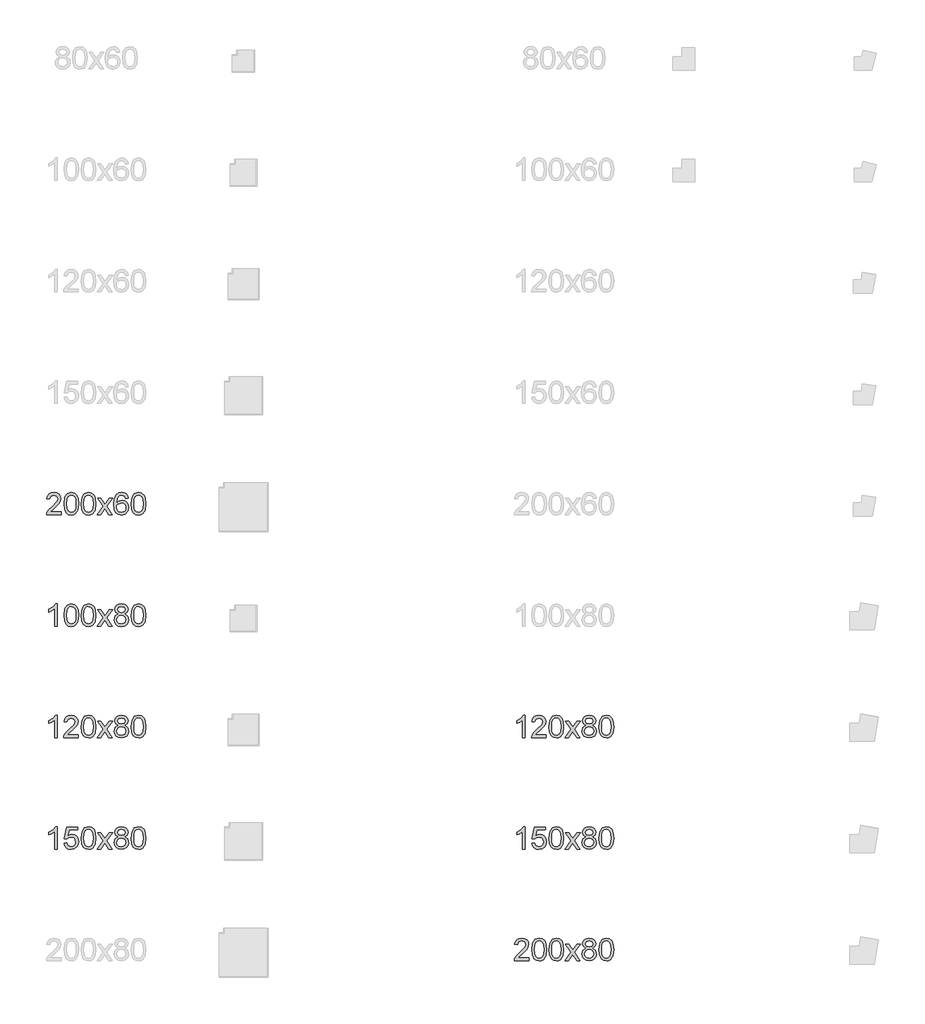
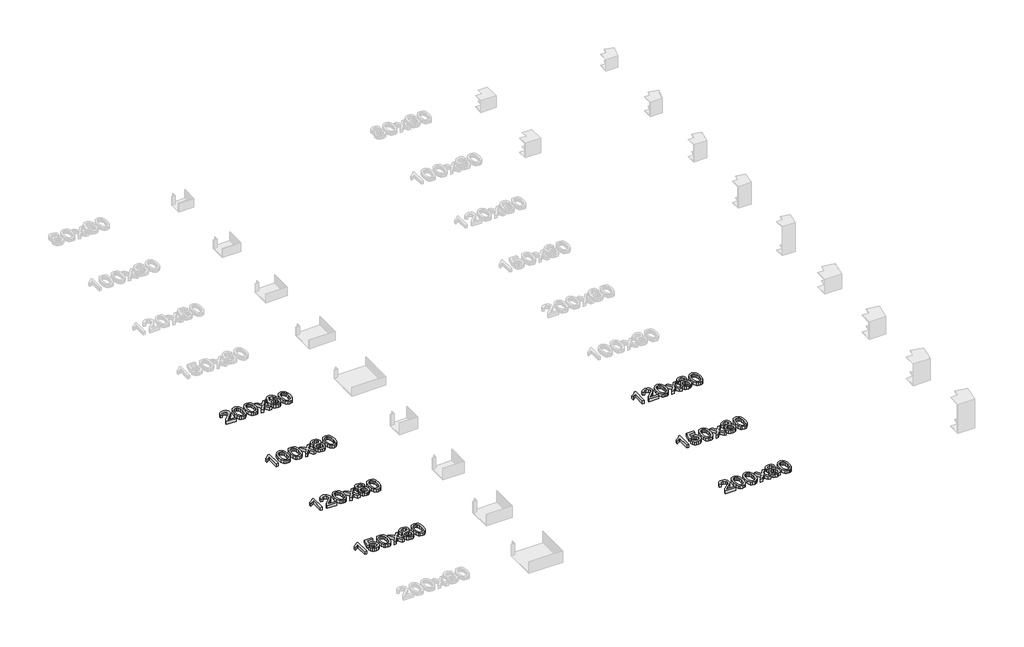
# One storey, part 13 of 28: 7 proxies.
"""IFC4 building model written with IfcOpenShell, lengths in millimetres."""

from ifc_helpers import new_model, si_unit, origin, origin_with_axes, place, context, project, spatial, polyline, outline, extrude, element, save

model = new_model("IFC4")

# Units and contexts
model_context = context("Model", 3, world=origin())
ifc_project = project(units=[si_unit("LENGTHUNIT", "METRE", prefix="MILLI")], contexts=[model_context])

# Site, building, storey
site = spatial("IfcSite", under=ifc_project)
building = spatial("IfcBuilding", under=site)
storey = spatial("IfcBuildingStorey", under=building, Name="Этаж 01", Elevation=0.0)

# Proxies
placement = place(None, origin())
element("IfcBuildingElementProxy", 1, Name="100 мм Arial", ObjectType="100 мм Arial", at=placement, inside=storey, context=model_context, shape_type="SweptSolid", body=[
    extrude(outline(polyline([(12984.7984291, -2450.778217), (12984.7984291, -2463.3352558), (12918.8739756, -2463.3352558), (12920.2228762, -2454.6777662), (12927.8502962, -2441.3481752), (12943.5711202, -2426.7923109), (12965.2516324, -2405.8720882), (12970.6717605, -2391.6473177), (12965.5582007, -2380.1326112), (12952.2040843, -2375.4359844), (12938.2858822, -2380.0222466), (12933.0006442, -2392.7019127), (12920.4436054, -2391.1322829), (12923.4878289, -2378.9860457), (12930.0698509, -2370.1139582), (12939.846315, -2364.6876988), (12952.4738644, -2362.8789457), (12965.1933844, -2364.8900339), (12974.9514544, -2370.9232986), (12981.159463, -2379.9364075), (12983.2287992, -2390.8870282), (12980.9969818, -2402.7941421), (12973.5780282, -2415.1059262), (12955.5885987, -2432.3105409), (12941.143099, -2444.389333), (12935.4777163, -2450.778217), (12984.7984291, -2450.778217)])), origin_with_axes(), (0.0, 0.0, 1.0), 20.0),
    extrude(outline(polyline([(12997.3554679, -2413.9164411), (13001.0465505, -2385.013179), (13012.009434, -2368.3481246), (13030.3176946, -2362.8789457), (13044.9839235, -2366.1163072), (13055.1129411, -2375.4482472), (13060.999053, -2390.3106798), (13063.2799214, -2413.9164411), (13059.6256269, -2442.6970759), (13048.6995317, -2459.3989185), (13040.468172, -2463.5283938), (13030.3176946, -2464.9048856), (13017.2701465, -2462.5136527), (13007.3618581, -2455.3399538), (12999.8570654, -2438.349937), (12997.3554679, -2413.9164411)]), holes=[polyline([(13009.9125066, -2413.8919156), (13011.3840346, -2433.6441131), (13015.7986186, -2445.0760461), (13022.3714435, -2450.5298967), (13030.3176946, -2452.3478469), (13038.2639457, -2450.5237653), (13044.8367707, -2445.0515206), (13049.2513546, -2433.6134563), (13050.7228826, -2413.8919156), (13049.3004056, -2394.5842423), (13045.0329744, -2383.0634045), (13038.4724122, -2377.3428394), (13030.1705418, -2375.4359844), (13022.3101299, -2377.1159789), (13015.9948223, -2382.1559622), (13011.4330855, -2394.3941699), (13009.9125066, -2413.8919156)])]), origin_with_axes(), (0.0, 0.0, 1.0), 20.0),
    extrude(outline(polyline([(13074.2673303, -2413.9164411), (13077.958413, -2385.013179), (13088.9212965, -2368.3481246), (13107.2295571, -2362.8789457), (13121.895786, -2366.1163072), (13132.0248036, -2375.4482472), (13137.9109155, -2390.3106798), (13140.1917839, -2413.9164411), (13136.5374894, -2442.6970759), (13125.6113941, -2459.3989185), (13117.3800345, -2463.5283938), (13107.2295571, -2464.9048856), (13094.182009, -2462.5136527), (13084.2737206, -2455.3399538), (13076.7689279, -2438.349937), (13074.2673303, -2413.9164411)]), holes=[polyline([(13086.8243691, -2413.8919156), (13088.2958971, -2433.6441131), (13092.710481, -2445.0760461), (13099.283306, -2450.5298967), (13107.2295571, -2452.3478469), (13115.1758082, -2450.5237653), (13121.7486332, -2445.0515206), (13126.1632171, -2433.6134563), (13127.6347451, -2413.8919156), (13126.212268, -2394.5842423), (13121.9448369, -2383.0634045), (13115.3842746, -2377.3428394), (13107.0824043, -2375.4359844), (13099.2219923, -2377.1159789), (13092.9066847, -2382.1559622), (13088.344948, -2394.3941699), (13086.8243691, -2413.8919156)])]), origin_with_axes(), (0.0, 0.0, 1.0), 20.0),
    extrude(outline(polyline([(13146.4703032, -2463.3352558), (13173.3011634, -2426.2527507), (13148.0399331, -2389.562653), (13163.1476204, -2389.562653), (13175.3367771, -2407.2209888), (13181.0266853, -2415.5596474), (13185.9563041, -2408.7415677), (13199.837718, -2389.562653), (13214.9454053, -2389.562653), (13188.4088507, -2426.2527507), (13213.9643866, -2463.3352558), (13198.8566994, -2463.3352558), (13183.479232, -2441.0416069), (13180.6588033, -2436.9703795), (13161.5779905, -2463.3352558), (13146.4703032, -2463.3352558)])), origin_with_axes(), (0.0, 0.0, 1.0), 20.0),
    extrude(outline(polyline([(13286.1673595, -2389.562653), (13273.6103208, -2391.1322829), (13268.8523803, -2380.6599088), (13256.2708161, -2375.4359844), (13244.9400506, -2378.4771422), (13236.3684001, -2389.8937468), (13232.7999448, -2412.2732349), (13243.8731928, -2402.2545819), (13257.5951912, -2398.9804321), (13269.1957368, -2401.2183809), (13278.932347, -2407.9322273), (13285.5358288, -2418.1900036), (13287.7369894, -2431.0597421), (13283.5921856, -2448.3869841), (13272.1878437, -2460.6497172), (13255.7312558, -2464.9048856), (13241.4850255, -2462.084457), (13230.1389317, -2453.6231711), (13222.7169124, -2438.6871621), (13220.242906, -2416.4425641), (13222.9897582, -2391.4327198), (13231.2303149, -2374.3323384), (13242.4813726, -2365.7422938), (13257.055631, -2362.8789457), (13268.0736967, -2364.6509106), (13276.8967333, -2369.9668054), (13283.0771508, -2378.4096972), (13286.1673595, -2389.562653)]), holes=[polyline([(13232.7999448, -2430.8635384), (13235.7062125, -2441.7405827), (13243.4317344, -2449.6377828), (13254.7502372, -2452.3478469), (13263.0367791, -2450.9437639), (13269.5513561, -2446.7315151), (13273.772802, -2440.1096392), (13275.1799506, -2431.476675), (13273.7911961, -2423.1901331), (13269.6249325, -2416.8717598), (13262.9999909, -2412.8710431), (13254.2352024, -2411.5374709), (13239.041676, -2416.8717598), (13234.3603776, -2423.0368489), (13232.7999448, -2430.8635384)])]), origin_with_axes(), (0.0, 0.0, 1.0), 20.0),
    extrude(outline(polyline([(13298.7243983, -2413.9164411), (13302.415481, -2385.013179), (13313.3783645, -2368.3481246), (13331.6866251, -2362.8789457), (13346.352854, -2366.1163072), (13356.4818716, -2375.4482472), (13362.3679835, -2390.3106798), (13364.6488518, -2413.9164411), (13360.9945574, -2442.6970759), (13350.0684621, -2459.3989185), (13341.8371025, -2463.5283938), (13331.6866251, -2464.9048856), (13318.639077, -2462.5136527), (13308.7307886, -2455.3399538), (13301.2259959, -2438.349937), (13298.7243983, -2413.9164411)]), holes=[polyline([(13311.2814371, -2413.8919156), (13312.7529651, -2433.6441131), (13317.167549, -2445.0760461), (13323.740374, -2450.5298967), (13331.6866251, -2452.3478469), (13339.6328762, -2450.5237653), (13346.2057012, -2445.0515206), (13350.6202851, -2433.6134563), (13352.0918131, -2413.8919156), (13350.669336, -2394.5842423), (13346.4019049, -2383.0634045), (13339.8413426, -2377.3428394), (13331.5394723, -2375.4359844), (13323.6790603, -2377.1159789), (13317.3637527, -2382.1559622), (13312.802016, -2394.3941699), (13311.2814371, -2413.8919156)])]), origin_with_axes(), (0.0, 0.0, 1.0), 20.0),
])
element("IfcBuildingElementProxy", 2, Name="100 мм Arial", ObjectType="100 мм Arial", at=placement, inside=storey, context=model_context, shape_type="SweptSolid", body=[
    extrude(outline(polyline([(12967.5325008, -2963.3352558), (12954.975462, -2963.3352558), (12954.975462, -2885.0499672), (12943.0806108, -2893.5235158), (12929.8613845, -2899.8633489), (12929.8613845, -2887.9930232), (12948.267747, -2876.2453248), (12959.4390969, -2862.8789457), (12967.5325008, -2862.8789457), (12967.5325008, -2963.3352558)])), origin_with_axes(), (0.0, 0.0, 1.0), 20.0),
    extrude(outline(polyline([(12997.3554679, -2913.9164411), (13001.0465505, -2885.013179), (13012.009434, -2868.3481246), (13030.3176946, -2862.8789457), (13044.9839235, -2866.1163072), (13055.1129411, -2875.4482472), (13060.999053, -2890.3106798), (13063.2799214, -2913.9164411), (13059.6256269, -2942.6970759), (13048.6995317, -2959.3989185), (13040.468172, -2963.5283938), (13030.3176946, -2964.9048856), (13017.2701465, -2962.5136527), (13007.3618581, -2955.3399538), (12999.8570654, -2938.349937), (12997.3554679, -2913.9164411)]), holes=[polyline([(13009.9125066, -2913.8919156), (13011.3840346, -2933.6441131), (13015.7986186, -2945.0760461), (13022.3714435, -2950.5298967), (13030.3176946, -2952.3478469), (13038.2639457, -2950.5237653), (13044.8367707, -2945.0515206), (13049.2513546, -2933.6134563), (13050.7228826, -2913.8919156), (13049.3004056, -2894.5842423), (13045.0329744, -2883.0634045), (13038.4724122, -2877.3428394), (13030.1705418, -2875.4359844), (13022.3101299, -2877.1159789), (13015.9948223, -2882.1559622), (13011.4330855, -2894.3941699), (13009.9125066, -2913.8919156)])]), origin_with_axes(), (0.0, 0.0, 1.0), 20.0),
    extrude(outline(polyline([(13074.2673303, -2913.9164411), (13077.958413, -2885.013179), (13088.9212965, -2868.3481246), (13107.2295571, -2862.8789457), (13121.895786, -2866.1163072), (13132.0248036, -2875.4482472), (13137.9109155, -2890.3106798), (13140.1917839, -2913.9164411), (13136.5374894, -2942.6970759), (13125.6113941, -2959.3989185), (13117.3800345, -2963.5283938), (13107.2295571, -2964.9048856), (13094.182009, -2962.5136527), (13084.2737206, -2955.3399538), (13076.7689279, -2938.349937), (13074.2673303, -2913.9164411)]), holes=[polyline([(13086.8243691, -2913.8919156), (13088.2958971, -2933.6441131), (13092.710481, -2945.0760461), (13099.283306, -2950.5298967), (13107.2295571, -2952.3478469), (13115.1758082, -2950.5237653), (13121.7486332, -2945.0515206), (13126.1632171, -2933.6134563), (13127.6347451, -2913.8919156), (13126.212268, -2894.5842423), (13121.9448369, -2883.0634045), (13115.3842746, -2877.3428394), (13107.0824043, -2875.4359844), (13099.2219923, -2877.1159789), (13092.9066847, -2882.1559622), (13088.344948, -2894.3941699), (13086.8243691, -2913.8919156)])]), origin_with_axes(), (0.0, 0.0, 1.0), 20.0),
    extrude(outline(polyline([(13146.4703032, -2963.3352558), (13173.3011634, -2926.2527507), (13148.0399331, -2889.562653), (13163.1476204, -2889.562653), (13175.3367771, -2907.2209888), (13181.0266853, -2915.5596474), (13185.9563041, -2908.7415677), (13199.837718, -2889.562653), (13214.9454053, -2889.562653), (13188.4088507, -2926.2527507), (13213.9643866, -2963.3352558), (13198.8566994, -2963.3352558), (13183.479232, -2941.0416069), (13180.6588033, -2936.9703795), (13161.5779905, -2963.3352558), (13146.4703032, -2963.3352558)])), origin_with_axes(), (0.0, 0.0, 1.0), 20.0),
    extrude(outline(polyline([(13240.1085337, -2908.0058037), (13228.6674037, -2900.2067054), (13224.9517955, -2888.0665996), (13226.9751465, -2878.2502817), (13233.0451994, -2870.1384837), (13242.4813726, -2864.6938302), (13254.6030844, -2862.8789457), (13266.7983725, -2864.7367497), (13276.357173, -2870.310162), (13282.5375905, -2878.5507186), (13284.5977297, -2888.4099561), (13280.9311725, -2900.2434936), (13269.8088735, -2908.0058037), (13283.1629899, -2917.8527785), (13287.7369894, -2934.1008999), (13285.4683838, -2946.1061157), (13278.6625668, -2956.0266668), (13268.1534045, -2962.6853309), (13254.7747626, -2964.9048856), (13241.3961207, -2962.6761339), (13230.8869584, -2955.9898786), (13224.0811415, -2945.9742913), (13221.8125359, -2933.7575434), (13226.5704763, -2917.1292772), (13240.1085337, -2908.0058037)]), holes=[polyline([(13234.3695746, -2933.316085), (13236.466502, -2942.7706523), (13243.8854556, -2949.8462493), (13254.8728645, -2952.3478469), (13263.4199895, -2951.0326687), (13269.833399, -2947.0871343), (13275.1799506, -2933.7084925), (13269.6617207, -2920.0723332), (13263.1011584, -2916.0256312), (13254.4559316, -2914.6767306), (13246.0283682, -2916.0072371), (13239.6793381, -2919.9987568), (13234.3695746, -2933.316085)]), polyline([(13237.5088343, -2888.4344816), (13241.9602065, -2898.2937191), (13254.9219154, -2902.1196918), (13267.626107, -2898.3182445), (13272.0406909, -2888.9985673), (13267.4789542, -2879.3477963), (13254.7747626, -2875.4359844), (13242.0337829, -2879.2619572), (13237.5088343, -2888.4344816)])]), origin_with_axes(), (0.0, 0.0, 1.0), 20.0),
    extrude(outline(polyline([(13298.7243983, -2913.9164411), (13302.415481, -2885.013179), (13313.3783645, -2868.3481246), (13331.6866251, -2862.8789457), (13346.352854, -2866.1163072), (13356.4818716, -2875.4482472), (13362.3679835, -2890.3106798), (13364.6488518, -2913.9164411), (13360.9945574, -2942.6970759), (13350.0684621, -2959.3989185), (13341.8371025, -2963.5283938), (13331.6866251, -2964.9048856), (13318.639077, -2962.5136527), (13308.7307886, -2955.3399538), (13301.2259959, -2938.349937), (13298.7243983, -2913.9164411)]), holes=[polyline([(13311.2814371, -2913.8919156), (13312.7529651, -2933.6441131), (13317.167549, -2945.0760461), (13323.740374, -2950.5298967), (13331.6866251, -2952.3478469), (13339.6328762, -2950.5237653), (13346.2057012, -2945.0515206), (13350.6202851, -2933.6134563), (13352.0918131, -2913.8919156), (13350.669336, -2894.5842423), (13346.4019049, -2883.0634045), (13339.8413426, -2877.3428394), (13331.5394723, -2875.4359844), (13323.6790603, -2877.1159789), (13317.3637527, -2882.1559622), (13312.802016, -2894.3941699), (13311.2814371, -2913.8919156)])]), origin_with_axes(), (0.0, 0.0, 1.0), 20.0),
])
element("IfcBuildingElementProxy", 3, Name="100 мм Arial", ObjectType="100 мм Arial", at=placement, inside=storey, context=model_context, shape_type="SweptSolid", body=[
    extrude(outline(polyline([(12967.5325008, -3463.3352558), (12954.975462, -3463.3352558), (12954.975462, -3385.0499672), (12943.0806108, -3393.5235158), (12929.8613845, -3399.8633489), (12929.8613845, -3387.9930232), (12948.267747, -3376.2453248), (12959.4390969, -3362.8789457), (12967.5325008, -3362.8789457), (12967.5325008, -3463.3352558)])), origin_with_axes(), (0.0, 0.0, 1.0), 20.0),
    extrude(outline(polyline([(13061.7102916, -3450.778217), (13061.7102916, -3463.3352558), (12995.785838, -3463.3352558), (12997.1347387, -3454.6777662), (13004.7621587, -3441.3481752), (13020.4829826, -3426.7923109), (13042.1634949, -3405.8720882), (13047.5836229, -3391.6473177), (13042.4700632, -3380.1326112), (13029.1159468, -3375.4359844), (13015.1977446, -3380.0222466), (13009.9125066, -3392.7019127), (12997.3554679, -3391.1322829), (13000.3996914, -3378.9860457), (13006.9817134, -3370.1139582), (13016.7581774, -3364.6876988), (13029.3857269, -3362.8789457), (13042.1052469, -3364.8900339), (13051.8633168, -3370.9232986), (13058.0713255, -3379.9364075), (13060.1406617, -3390.8870282), (13057.9088443, -3402.7941421), (13050.4898907, -3415.1059262), (13032.5004611, -3432.3105409), (13018.0549615, -3444.389333), (13012.3895787, -3450.778217), (13061.7102916, -3450.778217)])), origin_with_axes(), (0.0, 0.0, 1.0), 20.0),
    extrude(outline(polyline([(13074.2673303, -3413.9164411), (13077.958413, -3385.013179), (13088.9212965, -3368.3481246), (13107.2295571, -3362.8789457), (13121.895786, -3366.1163072), (13132.0248036, -3375.4482472), (13137.9109155, -3390.3106798), (13140.1917839, -3413.9164411), (13136.5374894, -3442.6970759), (13125.6113941, -3459.3989185), (13117.3800345, -3463.5283938), (13107.2295571, -3464.9048856), (13094.182009, -3462.5136527), (13084.2737206, -3455.3399538), (13076.7689279, -3438.349937), (13074.2673303, -3413.9164411)]), holes=[polyline([(13086.8243691, -3413.8919156), (13088.2958971, -3433.6441131), (13092.710481, -3445.0760461), (13099.283306, -3450.5298967), (13107.2295571, -3452.3478469), (13115.1758082, -3450.5237653), (13121.7486332, -3445.0515206), (13126.1632171, -3433.6134563), (13127.6347451, -3413.8919156), (13126.212268, -3394.5842423), (13121.9448369, -3383.0634045), (13115.3842746, -3377.3428394), (13107.0824043, -3375.4359844), (13099.2219923, -3377.1159789), (13092.9066847, -3382.1559622), (13088.344948, -3394.3941699), (13086.8243691, -3413.8919156)])]), origin_with_axes(), (0.0, 0.0, 1.0), 20.0),
    extrude(outline(polyline([(13146.4703032, -3463.3352558), (13173.3011634, -3426.2527507), (13148.0399331, -3389.562653), (13163.1476204, -3389.562653), (13175.3367771, -3407.2209888), (13181.0266853, -3415.5596474), (13185.9563041, -3408.7415677), (13199.837718, -3389.562653), (13214.9454053, -3389.562653), (13188.4088507, -3426.2527507), (13213.9643866, -3463.3352558), (13198.8566994, -3463.3352558), (13183.479232, -3441.0416069), (13180.6588033, -3436.9703795), (13161.5779905, -3463.3352558), (13146.4703032, -3463.3352558)])), origin_with_axes(), (0.0, 0.0, 1.0), 20.0),
    extrude(outline(polyline([(13240.1085337, -3408.0058037), (13228.6674037, -3400.2067054), (13224.9517955, -3388.0665996), (13226.9751465, -3378.2502817), (13233.0451994, -3370.1384837), (13242.4813726, -3364.6938302), (13254.6030844, -3362.8789457), (13266.7983725, -3364.7367497), (13276.357173, -3370.310162), (13282.5375905, -3378.5507186), (13284.5977297, -3388.4099561), (13280.9311725, -3400.2434936), (13269.8088735, -3408.0058037), (13283.1629899, -3417.8527785), (13287.7369894, -3434.1008999), (13285.4683838, -3446.1061157), (13278.6625668, -3456.0266668), (13268.1534045, -3462.6853309), (13254.7747626, -3464.9048856), (13241.3961207, -3462.6761339), (13230.8869584, -3455.9898786), (13224.0811415, -3445.9742913), (13221.8125359, -3433.7575434), (13226.5704763, -3417.1292772), (13240.1085337, -3408.0058037)]), holes=[polyline([(13237.5088343, -3388.4344816), (13241.9602065, -3398.2937191), (13254.9219154, -3402.1196918), (13267.626107, -3398.3182445), (13272.0406909, -3388.9985673), (13267.4789542, -3379.3477963), (13254.7747626, -3375.4359844), (13242.0337829, -3379.2619572), (13237.5088343, -3388.4344816)]), polyline([(13234.3695746, -3433.316085), (13236.466502, -3442.7706523), (13243.8854556, -3449.8462493), (13254.8728645, -3452.3478469), (13263.4199895, -3451.0326687), (13269.833399, -3447.0871343), (13275.1799506, -3433.7084925), (13269.6617207, -3420.0723332), (13263.1011584, -3416.0256312), (13254.4559316, -3414.6767306), (13246.0283682, -3416.0072371), (13239.6793381, -3419.9987568), (13234.3695746, -3433.316085)])]), origin_with_axes(), (0.0, 0.0, 1.0), 20.0),
    extrude(outline(polyline([(13298.7243983, -3413.9164411), (13302.415481, -3385.013179), (13313.3783645, -3368.3481246), (13331.6866251, -3362.8789457), (13346.352854, -3366.1163072), (13356.4818716, -3375.4482472), (13362.3679835, -3390.3106798), (13364.6488518, -3413.9164411), (13360.9945574, -3442.6970759), (13350.0684621, -3459.3989185), (13341.8371025, -3463.5283938), (13331.6866251, -3464.9048856), (13318.639077, -3462.5136527), (13308.7307886, -3455.3399538), (13301.2259959, -3438.349937), (13298.7243983, -3413.9164411)]), holes=[polyline([(13311.2814371, -3413.8919156), (13312.7529651, -3433.6441131), (13317.167549, -3445.0760461), (13323.740374, -3450.5298967), (13331.6866251, -3452.3478469), (13339.6328762, -3450.5237653), (13346.2057012, -3445.0515206), (13350.6202851, -3433.6134563), (13352.0918131, -3413.8919156), (13350.669336, -3394.5842423), (13346.4019049, -3383.0634045), (13339.8413426, -3377.3428394), (13331.5394723, -3375.4359844), (13323.6790603, -3377.1159789), (13317.3637527, -3382.1559622), (13312.802016, -3394.3941699), (13311.2814371, -3413.8919156)])]), origin_with_axes(), (0.0, 0.0, 1.0), 20.0),
])
element("IfcBuildingElementProxy", 4, Name="100 мм Arial", ObjectType="100 мм Arial", at=placement, inside=storey, context=model_context, shape_type="SweptSolid", body=[
    extrude(outline(polyline([(12967.5325008, -3963.3352558), (12954.975462, -3963.3352558), (12954.975462, -3885.0499672), (12943.0806108, -3893.5235158), (12929.8613845, -3899.8633489), (12929.8613845, -3887.9930232), (12948.267747, -3876.2453248), (12959.4390969, -3862.8789457), (12967.5325008, -3862.8789457), (12967.5325008, -3963.3352558)])), origin_with_axes(), (0.0, 0.0, 1.0), 20.0),
    extrude(outline(polyline([(12997.3554679, -3936.6515484), (13009.9125066, -3935.0819186), (13016.2400769, -3948.0191021), (13029.3612014, -3952.3478469), (13038.3620476, -3950.8425964), (13045.1065508, -3946.3268449), (13049.3187997, -3939.3217586), (13050.7228826, -3930.3485036), (13045.4621701, -3915.43702), (13038.8556226, -3911.3351358), (13029.5574052, -3909.967841), (13018.5332081, -3912.1506075), (13011.4821365, -3917.8159903), (12998.9250977, -3916.2463604), (13009.9125066, -3864.4485755), (13058.5710319, -3864.4485755), (13058.5710319, -3877.0056143), (13020.0660497, -3877.0056143), (13014.6949726, -3904.6703403), (13023.6651619, -3899.2256868), (13033.0645469, -3897.4108023), (13044.7969168, -3899.6610138), (13054.5365926, -3906.4116484), (13061.0940892, -3916.7000815), (13063.2799214, -3929.5636886), (13061.3117527, -3942.1207274), (13055.4072467, -3952.8628817), (13044.1010067, -3961.8943847), (13029.3121505, -3964.9048856), (13016.9789066, -3962.9704395), (13007.1533917, -3957.167101), (13000.4180855, -3948.1693206), (12997.3554679, -3936.6515484)])), origin_with_axes(), (0.0, 0.0, 1.0), 20.0),
    extrude(outline(polyline([(13074.2673303, -3913.9164411), (13077.958413, -3885.013179), (13088.9212965, -3868.3481246), (13107.2295571, -3862.8789457), (13121.895786, -3866.1163072), (13132.0248036, -3875.4482472), (13137.9109155, -3890.3106798), (13140.1917839, -3913.9164411), (13136.5374894, -3942.6970759), (13125.6113941, -3959.3989185), (13117.3800345, -3963.5283938), (13107.2295571, -3964.9048856), (13094.182009, -3962.5136527), (13084.2737206, -3955.3399538), (13076.7689279, -3938.349937), (13074.2673303, -3913.9164411)]), holes=[polyline([(13086.8243691, -3913.8919156), (13088.2958971, -3933.6441131), (13092.710481, -3945.0760461), (13099.283306, -3950.5298967), (13107.2295571, -3952.3478469), (13115.1758082, -3950.5237653), (13121.7486332, -3945.0515206), (13126.1632171, -3933.6134563), (13127.6347451, -3913.8919156), (13126.212268, -3894.5842423), (13121.9448369, -3883.0634045), (13115.3842746, -3877.3428394), (13107.0824043, -3875.4359844), (13099.2219923, -3877.1159789), (13092.9066847, -3882.1559622), (13088.344948, -3894.3941699), (13086.8243691, -3913.8919156)])]), origin_with_axes(), (0.0, 0.0, 1.0), 20.0),
    extrude(outline(polyline([(13146.4703032, -3963.3352558), (13173.3011634, -3926.2527507), (13148.0399331, -3889.562653), (13163.1476204, -3889.562653), (13175.3367771, -3907.2209888), (13181.0266853, -3915.5596474), (13185.9563041, -3908.7415677), (13199.837718, -3889.562653), (13214.9454053, -3889.562653), (13188.4088507, -3926.2527507), (13213.9643866, -3963.3352558), (13198.8566994, -3963.3352558), (13183.479232, -3941.0416069), (13180.6588033, -3936.9703795), (13161.5779905, -3963.3352558), (13146.4703032, -3963.3352558)])), origin_with_axes(), (0.0, 0.0, 1.0), 20.0),
    extrude(outline(polyline([(13240.1085337, -3908.0058037), (13228.6674037, -3900.2067054), (13224.9517955, -3888.0665996), (13226.9751465, -3878.2502817), (13233.0451994, -3870.1384837), (13242.4813726, -3864.6938302), (13254.6030844, -3862.8789457), (13266.7983725, -3864.7367497), (13276.357173, -3870.310162), (13282.5375905, -3878.5507186), (13284.5977297, -3888.4099561), (13280.9311725, -3900.2434936), (13269.8088735, -3908.0058037), (13283.1629899, -3917.8527785), (13287.7369894, -3934.1008999), (13285.4683838, -3946.1061157), (13278.6625668, -3956.0266668), (13268.1534045, -3962.6853309), (13254.7747626, -3964.9048856), (13241.3961207, -3962.6761339), (13230.8869584, -3955.9898786), (13224.0811415, -3945.9742913), (13221.8125359, -3933.7575434), (13226.5704763, -3917.1292772), (13240.1085337, -3908.0058037)]), holes=[polyline([(13234.3695746, -3933.316085), (13236.466502, -3942.7706523), (13243.8854556, -3949.8462493), (13254.8728645, -3952.3478469), (13263.4199895, -3951.0326687), (13269.833399, -3947.0871343), (13275.1799506, -3933.7084925), (13269.6617207, -3920.0723332), (13263.1011584, -3916.0256312), (13254.4559316, -3914.6767306), (13246.0283682, -3916.0072371), (13239.6793381, -3919.9987568), (13234.3695746, -3933.316085)]), polyline([(13237.5088343, -3888.4344816), (13241.9602065, -3898.2937191), (13254.9219154, -3902.1196918), (13267.626107, -3898.3182445), (13272.0406909, -3888.9985673), (13267.4789542, -3879.3477963), (13254.7747626, -3875.4359844), (13242.0337829, -3879.2619572), (13237.5088343, -3888.4344816)])]), origin_with_axes(), (0.0, 0.0, 1.0), 20.0),
    extrude(outline(polyline([(13298.7243983, -3913.9164411), (13302.415481, -3885.013179), (13313.3783645, -3868.3481246), (13331.6866251, -3862.8789457), (13346.352854, -3866.1163072), (13356.4818716, -3875.4482472), (13362.3679835, -3890.3106798), (13364.6488518, -3913.9164411), (13360.9945574, -3942.6970759), (13350.0684621, -3959.3989185), (13341.8371025, -3963.5283938), (13331.6866251, -3964.9048856), (13318.639077, -3962.5136527), (13308.7307886, -3955.3399538), (13301.2259959, -3938.349937), (13298.7243983, -3913.9164411)]), holes=[polyline([(13311.2814371, -3913.8919156), (13312.7529651, -3933.6441131), (13317.167549, -3945.0760461), (13323.740374, -3950.5298967), (13331.6866251, -3952.3478469), (13339.6328762, -3950.5237653), (13346.2057012, -3945.0515206), (13350.6202851, -3933.6134563), (13352.0918131, -3913.8919156), (13350.669336, -3894.5842423), (13346.4019049, -3883.0634045), (13339.8413426, -3877.3428394), (13331.5394723, -3875.4359844), (13323.6790603, -3877.1159789), (13317.3637527, -3882.1559622), (13312.802016, -3894.3941699), (13311.2814371, -3913.8919156)])]), origin_with_axes(), (0.0, 0.0, 1.0), 20.0),
])
element("IfcBuildingElementProxy", 5, Name="100 мм Arial", ObjectType="100 мм Arial", at=placement, inside=storey, context=model_context, shape_type="SweptSolid", body=[
    extrude(outline(polyline([(15067.5325008, -3463.3352558), (15054.975462, -3463.3352558), (15054.975462, -3385.0499672), (15043.0806108, -3393.5235158), (15029.8613845, -3399.8633489), (15029.8613845, -3387.9930232), (15048.267747, -3376.2453248), (15059.4390969, -3362.8789457), (15067.5325008, -3362.8789457), (15067.5325008, -3463.3352558)])), origin_with_axes(), (0.0, 0.0, 1.0), 20.0),
    extrude(outline(polyline([(15161.7102916, -3450.778217), (15161.7102916, -3463.3352558), (15095.785838, -3463.3352558), (15097.1347387, -3454.6777662), (15104.7621587, -3441.3481752), (15120.4829826, -3426.7923109), (15142.1634949, -3405.8720882), (15147.5836229, -3391.6473177), (15142.4700632, -3380.1326112), (15129.1159468, -3375.4359844), (15115.1977446, -3380.0222466), (15109.9125066, -3392.7019127), (15097.3554679, -3391.1322829), (15100.3996914, -3378.9860457), (15106.9817134, -3370.1139582), (15116.7581774, -3364.6876988), (15129.3857269, -3362.8789457), (15142.1052469, -3364.8900339), (15151.8633168, -3370.9232986), (15158.0713255, -3379.9364075), (15160.1406617, -3390.8870282), (15157.9088443, -3402.7941421), (15150.4898907, -3415.1059262), (15132.5004611, -3432.3105409), (15118.0549615, -3444.389333), (15112.3895787, -3450.778217), (15161.7102916, -3450.778217)])), origin_with_axes(), (0.0, 0.0, 1.0), 20.0),
    extrude(outline(polyline([(15174.2673303, -3413.9164411), (15177.958413, -3385.013179), (15188.9212965, -3368.3481246), (15207.2295571, -3362.8789457), (15221.895786, -3366.1163072), (15232.0248036, -3375.4482472), (15237.9109155, -3390.3106798), (15240.1917839, -3413.9164411), (15236.5374894, -3442.6970759), (15225.6113941, -3459.3989185), (15217.3800345, -3463.5283938), (15207.2295571, -3464.9048856), (15194.182009, -3462.5136527), (15184.2737206, -3455.3399538), (15176.7689279, -3438.349937), (15174.2673303, -3413.9164411)]), holes=[polyline([(15186.8243691, -3413.8919156), (15188.2958971, -3433.6441131), (15192.710481, -3445.0760461), (15199.283306, -3450.5298967), (15207.2295571, -3452.3478469), (15215.1758082, -3450.5237653), (15221.7486332, -3445.0515206), (15226.1632171, -3433.6134563), (15227.6347451, -3413.8919156), (15226.212268, -3394.5842423), (15221.9448369, -3383.0634045), (15215.3842746, -3377.3428394), (15207.0824043, -3375.4359844), (15199.2219923, -3377.1159789), (15192.9066847, -3382.1559622), (15188.344948, -3394.3941699), (15186.8243691, -3413.8919156)])]), origin_with_axes(), (0.0, 0.0, 1.0), 20.0),
    extrude(outline(polyline([(15246.4703032, -3463.3352558), (15273.3011634, -3426.2527507), (15248.0399331, -3389.562653), (15263.1476204, -3389.562653), (15275.3367771, -3407.2209888), (15281.0266853, -3415.5596474), (15285.9563041, -3408.7415677), (15299.837718, -3389.562653), (15314.9454053, -3389.562653), (15288.4088507, -3426.2527507), (15313.9643866, -3463.3352558), (15298.8566994, -3463.3352558), (15283.479232, -3441.0416069), (15280.6588033, -3436.9703795), (15261.5779905, -3463.3352558), (15246.4703032, -3463.3352558)])), origin_with_axes(), (0.0, 0.0, 1.0), 20.0),
    extrude(outline(polyline([(15340.1085337, -3408.0058037), (15328.6674037, -3400.2067054), (15324.9517955, -3388.0665996), (15326.9751465, -3378.2502817), (15333.0451994, -3370.1384837), (15342.4813726, -3364.6938302), (15354.6030844, -3362.8789457), (15366.7983725, -3364.7367497), (15376.357173, -3370.310162), (15382.5375905, -3378.5507186), (15384.5977297, -3388.4099561), (15380.9311725, -3400.2434936), (15369.8088735, -3408.0058037), (15383.1629899, -3417.8527785), (15387.7369894, -3434.1008999), (15385.4683838, -3446.1061157), (15378.6625668, -3456.0266668), (15368.1534045, -3462.6853309), (15354.7747626, -3464.9048856), (15341.3961207, -3462.6761339), (15330.8869584, -3455.9898786), (15324.0811415, -3445.9742913), (15321.8125359, -3433.7575434), (15326.5704763, -3417.1292772), (15340.1085337, -3408.0058037)]), holes=[polyline([(15337.5088343, -3388.4344816), (15341.9602065, -3398.2937191), (15354.9219154, -3402.1196918), (15367.626107, -3398.3182445), (15372.0406909, -3388.9985673), (15367.4789542, -3379.3477963), (15354.7747626, -3375.4359844), (15342.0337829, -3379.2619572), (15337.5088343, -3388.4344816)]), polyline([(15334.3695746, -3433.316085), (15336.466502, -3442.7706523), (15343.8854556, -3449.8462493), (15354.8728645, -3452.3478469), (15363.4199895, -3451.0326687), (15369.833399, -3447.0871343), (15375.1799506, -3433.7084925), (15369.6617207, -3420.0723332), (15363.1011584, -3416.0256312), (15354.4559316, -3414.6767306), (15346.0283682, -3416.0072371), (15339.6793381, -3419.9987568), (15334.3695746, -3433.316085)])]), origin_with_axes(), (0.0, 0.0, 1.0), 20.0),
    extrude(outline(polyline([(15398.7243983, -3413.9164411), (15402.415481, -3385.013179), (15413.3783645, -3368.3481246), (15431.6866251, -3362.8789457), (15446.352854, -3366.1163072), (15456.4818716, -3375.4482472), (15462.3679835, -3390.3106798), (15464.6488518, -3413.9164411), (15460.9945574, -3442.6970759), (15450.0684621, -3459.3989185), (15441.8371025, -3463.5283938), (15431.6866251, -3464.9048856), (15418.639077, -3462.5136527), (15408.7307886, -3455.3399538), (15401.2259959, -3438.349937), (15398.7243983, -3413.9164411)]), holes=[polyline([(15411.2814371, -3413.8919156), (15412.7529651, -3433.6441131), (15417.167549, -3445.0760461), (15423.740374, -3450.5298967), (15431.6866251, -3452.3478469), (15439.6328762, -3450.5237653), (15446.2057012, -3445.0515206), (15450.6202851, -3433.6134563), (15452.0918131, -3413.8919156), (15450.669336, -3394.5842423), (15446.4019049, -3383.0634045), (15439.8413426, -3377.3428394), (15431.5394723, -3375.4359844), (15423.6790603, -3377.1159789), (15417.3637527, -3382.1559622), (15412.802016, -3394.3941699), (15411.2814371, -3413.8919156)])]), origin_with_axes(), (0.0, 0.0, 1.0), 20.0),
])
element("IfcBuildingElementProxy", 6, Name="100 мм Arial", ObjectType="100 мм Arial", at=placement, inside=storey, context=model_context, shape_type="SweptSolid", body=[
    extrude(outline(polyline([(15067.5325008, -3963.3352558), (15054.975462, -3963.3352558), (15054.975462, -3885.0499672), (15043.0806108, -3893.5235158), (15029.8613845, -3899.8633489), (15029.8613845, -3887.9930232), (15048.267747, -3876.2453248), (15059.4390969, -3862.8789457), (15067.5325008, -3862.8789457), (15067.5325008, -3963.3352558)])), origin_with_axes(), (0.0, 0.0, 1.0), 20.0),
    extrude(outline(polyline([(15097.3554679, -3936.6515484), (15109.9125066, -3935.0819186), (15116.2400769, -3948.0191021), (15129.3612014, -3952.3478469), (15138.3620476, -3950.8425964), (15145.1065508, -3946.3268449), (15149.3187997, -3939.3217586), (15150.7228826, -3930.3485036), (15145.4621701, -3915.43702), (15138.8556226, -3911.3351358), (15129.5574052, -3909.967841), (15118.5332081, -3912.1506075), (15111.4821365, -3917.8159903), (15098.9250977, -3916.2463604), (15109.9125066, -3864.4485755), (15158.5710319, -3864.4485755), (15158.5710319, -3877.0056143), (15120.0660497, -3877.0056143), (15114.6949726, -3904.6703403), (15123.6651619, -3899.2256868), (15133.0645469, -3897.4108023), (15144.7969168, -3899.6610138), (15154.5365926, -3906.4116484), (15161.0940892, -3916.7000815), (15163.2799214, -3929.5636886), (15161.3117527, -3942.1207274), (15155.4072467, -3952.8628817), (15144.1010067, -3961.8943847), (15129.3121505, -3964.9048856), (15116.9789066, -3962.9704395), (15107.1533917, -3957.167101), (15100.4180855, -3948.1693206), (15097.3554679, -3936.6515484)])), origin_with_axes(), (0.0, 0.0, 1.0), 20.0),
    extrude(outline(polyline([(15174.2673303, -3913.9164411), (15177.958413, -3885.013179), (15188.9212965, -3868.3481246), (15207.2295571, -3862.8789457), (15221.895786, -3866.1163072), (15232.0248036, -3875.4482472), (15237.9109155, -3890.3106798), (15240.1917839, -3913.9164411), (15236.5374894, -3942.6970759), (15225.6113941, -3959.3989185), (15217.3800345, -3963.5283938), (15207.2295571, -3964.9048856), (15194.182009, -3962.5136527), (15184.2737206, -3955.3399538), (15176.7689279, -3938.349937), (15174.2673303, -3913.9164411)]), holes=[polyline([(15186.8243691, -3913.8919156), (15188.2958971, -3933.6441131), (15192.710481, -3945.0760461), (15199.283306, -3950.5298967), (15207.2295571, -3952.3478469), (15215.1758082, -3950.5237653), (15221.7486332, -3945.0515206), (15226.1632171, -3933.6134563), (15227.6347451, -3913.8919156), (15226.212268, -3894.5842423), (15221.9448369, -3883.0634045), (15215.3842746, -3877.3428394), (15207.0824043, -3875.4359844), (15199.2219923, -3877.1159789), (15192.9066847, -3882.1559622), (15188.344948, -3894.3941699), (15186.8243691, -3913.8919156)])]), origin_with_axes(), (0.0, 0.0, 1.0), 20.0),
    extrude(outline(polyline([(15246.4703032, -3963.3352558), (15273.3011634, -3926.2527507), (15248.0399331, -3889.562653), (15263.1476204, -3889.562653), (15275.3367771, -3907.2209888), (15281.0266853, -3915.5596474), (15285.9563041, -3908.7415677), (15299.837718, -3889.562653), (15314.9454053, -3889.562653), (15288.4088507, -3926.2527507), (15313.9643866, -3963.3352558), (15298.8566994, -3963.3352558), (15283.479232, -3941.0416069), (15280.6588033, -3936.9703795), (15261.5779905, -3963.3352558), (15246.4703032, -3963.3352558)])), origin_with_axes(), (0.0, 0.0, 1.0), 20.0),
    extrude(outline(polyline([(15340.1085337, -3908.0058037), (15328.6674037, -3900.2067054), (15324.9517955, -3888.0665996), (15326.9751465, -3878.2502817), (15333.0451994, -3870.1384837), (15342.4813726, -3864.6938302), (15354.6030844, -3862.8789457), (15366.7983725, -3864.7367497), (15376.357173, -3870.310162), (15382.5375905, -3878.5507186), (15384.5977297, -3888.4099561), (15380.9311725, -3900.2434936), (15369.8088735, -3908.0058037), (15383.1629899, -3917.8527785), (15387.7369894, -3934.1008999), (15385.4683838, -3946.1061157), (15378.6625668, -3956.0266668), (15368.1534045, -3962.6853309), (15354.7747626, -3964.9048856), (15341.3961207, -3962.6761339), (15330.8869584, -3955.9898786), (15324.0811415, -3945.9742913), (15321.8125359, -3933.7575434), (15326.5704763, -3917.1292772), (15340.1085337, -3908.0058037)]), holes=[polyline([(15334.3695746, -3933.316085), (15336.466502, -3942.7706523), (15343.8854556, -3949.8462493), (15354.8728645, -3952.3478469), (15363.4199895, -3951.0326687), (15369.833399, -3947.0871343), (15375.1799506, -3933.7084925), (15369.6617207, -3920.0723332), (15363.1011584, -3916.0256312), (15354.4559316, -3914.6767306), (15346.0283682, -3916.0072371), (15339.6793381, -3919.9987568), (15334.3695746, -3933.316085)]), polyline([(15337.5088343, -3888.4344816), (15341.9602065, -3898.2937191), (15354.9219154, -3902.1196918), (15367.626107, -3898.3182445), (15372.0406909, -3888.9985673), (15367.4789542, -3879.3477963), (15354.7747626, -3875.4359844), (15342.0337829, -3879.2619572), (15337.5088343, -3888.4344816)])]), origin_with_axes(), (0.0, 0.0, 1.0), 20.0),
    extrude(outline(polyline([(15398.7243983, -3913.9164411), (15402.415481, -3885.013179), (15413.3783645, -3868.3481246), (15431.6866251, -3862.8789457), (15446.352854, -3866.1163072), (15456.4818716, -3875.4482472), (15462.3679835, -3890.3106798), (15464.6488518, -3913.9164411), (15460.9945574, -3942.6970759), (15450.0684621, -3959.3989185), (15441.8371025, -3963.5283938), (15431.6866251, -3964.9048856), (15418.639077, -3962.5136527), (15408.7307886, -3955.3399538), (15401.2259959, -3938.349937), (15398.7243983, -3913.9164411)]), holes=[polyline([(15411.2814371, -3913.8919156), (15412.7529651, -3933.6441131), (15417.167549, -3945.0760461), (15423.740374, -3950.5298967), (15431.6866251, -3952.3478469), (15439.6328762, -3950.5237653), (15446.2057012, -3945.0515206), (15450.6202851, -3933.6134563), (15452.0918131, -3913.8919156), (15450.669336, -3894.5842423), (15446.4019049, -3883.0634045), (15439.8413426, -3877.3428394), (15431.5394723, -3875.4359844), (15423.6790603, -3877.1159789), (15417.3637527, -3882.1559622), (15412.802016, -3894.3941699), (15411.2814371, -3913.8919156)])]), origin_with_axes(), (0.0, 0.0, 1.0), 20.0),
])
element("IfcBuildingElementProxy", 7, Name="100 мм Arial", ObjectType="100 мм Arial", at=placement, inside=storey, context=model_context, shape_type="SweptSolid", body=[
    extrude(outline(polyline([(15084.7984291, -4450.778217), (15084.7984291, -4463.3352558), (15018.8739756, -4463.3352558), (15020.2228762, -4454.6777662), (15027.8502962, -4441.3481752), (15043.5711202, -4426.7923109), (15065.2516324, -4405.8720882), (15070.6717605, -4391.6473177), (15065.5582007, -4380.1326112), (15052.2040843, -4375.4359844), (15038.2858822, -4380.0222466), (15033.0006442, -4392.7019127), (15020.4436054, -4391.1322829), (15023.4878289, -4378.9860457), (15030.0698509, -4370.1139582), (15039.846315, -4364.6876988), (15052.4738644, -4362.8789457), (15065.1933844, -4364.8900339), (15074.9514544, -4370.9232986), (15081.159463, -4379.9364075), (15083.2287992, -4390.8870282), (15080.9969818, -4402.7941421), (15073.5780282, -4415.1059262), (15055.5885987, -4432.3105409), (15041.143099, -4444.389333), (15035.4777163, -4450.778217), (15084.7984291, -4450.778217)])), origin_with_axes(), (0.0, 0.0, 1.0), 20.0),
    extrude(outline(polyline([(15097.3554679, -4413.9164411), (15101.0465505, -4385.013179), (15112.009434, -4368.3481246), (15130.3176946, -4362.8789457), (15144.9839235, -4366.1163072), (15155.1129411, -4375.4482472), (15160.999053, -4390.3106798), (15163.2799214, -4413.9164411), (15159.6256269, -4442.6970759), (15148.6995317, -4459.3989185), (15140.468172, -4463.5283938), (15130.3176946, -4464.9048856), (15117.2701465, -4462.5136527), (15107.3618581, -4455.3399538), (15099.8570654, -4438.349937), (15097.3554679, -4413.9164411)]), holes=[polyline([(15109.9125066, -4413.8919156), (15111.3840346, -4433.6441131), (15115.7986186, -4445.0760461), (15122.3714435, -4450.5298967), (15130.3176946, -4452.3478469), (15138.2639457, -4450.5237653), (15144.8367707, -4445.0515206), (15149.2513546, -4433.6134563), (15150.7228826, -4413.8919156), (15149.3004056, -4394.5842423), (15145.0329744, -4383.0634045), (15138.4724122, -4377.3428394), (15130.1705418, -4375.4359844), (15122.3101299, -4377.1159789), (15115.9948223, -4382.1559622), (15111.4330855, -4394.3941699), (15109.9125066, -4413.8919156)])]), origin_with_axes(), (0.0, 0.0, 1.0), 20.0),
    extrude(outline(polyline([(15174.2673303, -4413.9164411), (15177.958413, -4385.013179), (15188.9212965, -4368.3481246), (15207.2295571, -4362.8789457), (15221.895786, -4366.1163072), (15232.0248036, -4375.4482472), (15237.9109155, -4390.3106798), (15240.1917839, -4413.9164411), (15236.5374894, -4442.6970759), (15225.6113941, -4459.3989185), (15217.3800345, -4463.5283938), (15207.2295571, -4464.9048856), (15194.182009, -4462.5136527), (15184.2737206, -4455.3399538), (15176.7689279, -4438.349937), (15174.2673303, -4413.9164411)]), holes=[polyline([(15186.8243691, -4413.8919156), (15188.2958971, -4433.6441131), (15192.710481, -4445.0760461), (15199.283306, -4450.5298967), (15207.2295571, -4452.3478469), (15215.1758082, -4450.5237653), (15221.7486332, -4445.0515206), (15226.1632171, -4433.6134563), (15227.6347451, -4413.8919156), (15226.212268, -4394.5842423), (15221.9448369, -4383.0634045), (15215.3842746, -4377.3428394), (15207.0824043, -4375.4359844), (15199.2219923, -4377.1159789), (15192.9066847, -4382.1559622), (15188.344948, -4394.3941699), (15186.8243691, -4413.8919156)])]), origin_with_axes(), (0.0, 0.0, 1.0), 20.0),
    extrude(outline(polyline([(15246.4703032, -4463.3352558), (15273.3011634, -4426.2527507), (15248.0399331, -4389.562653), (15263.1476204, -4389.562653), (15275.3367771, -4407.2209888), (15281.0266853, -4415.5596474), (15285.9563041, -4408.7415677), (15299.837718, -4389.562653), (15314.9454053, -4389.562653), (15288.4088507, -4426.2527507), (15313.9643866, -4463.3352558), (15298.8566994, -4463.3352558), (15283.479232, -4441.0416069), (15280.6588033, -4436.9703795), (15261.5779905, -4463.3352558), (15246.4703032, -4463.3352558)])), origin_with_axes(), (0.0, 0.0, 1.0), 20.0),
    extrude(outline(polyline([(15340.1085337, -4408.0058037), (15328.6674037, -4400.2067054), (15324.9517955, -4388.0665996), (15326.9751465, -4378.2502817), (15333.0451994, -4370.1384837), (15342.4813726, -4364.6938302), (15354.6030844, -4362.8789457), (15366.7983725, -4364.7367497), (15376.357173, -4370.310162), (15382.5375905, -4378.5507186), (15384.5977297, -4388.4099561), (15380.9311725, -4400.2434936), (15369.8088735, -4408.0058037), (15383.1629899, -4417.8527785), (15387.7369894, -4434.1008999), (15385.4683838, -4446.1061157), (15378.6625668, -4456.0266668), (15368.1534045, -4462.6853309), (15354.7747626, -4464.9048856), (15341.3961207, -4462.6761339), (15330.8869584, -4455.9898786), (15324.0811415, -4445.9742913), (15321.8125359, -4433.7575434), (15326.5704763, -4417.1292772), (15340.1085337, -4408.0058037)]), holes=[polyline([(15334.3695746, -4433.316085), (15336.466502, -4442.7706523), (15343.8854556, -4449.8462493), (15354.8728645, -4452.3478469), (15363.4199895, -4451.0326687), (15369.833399, -4447.0871343), (15375.1799506, -4433.7084925), (15369.6617207, -4420.0723332), (15363.1011584, -4416.0256312), (15354.4559316, -4414.6767306), (15346.0283682, -4416.0072371), (15339.6793381, -4419.9987568), (15334.3695746, -4433.316085)]), polyline([(15337.5088343, -4388.4344816), (15341.9602065, -4398.2937191), (15354.9219154, -4402.1196918), (15367.626107, -4398.3182445), (15372.0406909, -4388.9985673), (15367.4789542, -4379.3477963), (15354.7747626, -4375.4359844), (15342.0337829, -4379.2619572), (15337.5088343, -4388.4344816)])]), origin_with_axes(), (0.0, 0.0, 1.0), 20.0),
    extrude(outline(polyline([(15398.7243983, -4413.9164411), (15402.415481, -4385.013179), (15413.3783645, -4368.3481246), (15431.6866251, -4362.8789457), (15446.352854, -4366.1163072), (15456.4818716, -4375.4482472), (15462.3679835, -4390.3106798), (15464.6488518, -4413.9164411), (15460.9945574, -4442.6970759), (15450.0684621, -4459.3989185), (15441.8371025, -4463.5283938), (15431.6866251, -4464.9048856), (15418.639077, -4462.5136527), (15408.7307886, -4455.3399538), (15401.2259959, -4438.349937), (15398.7243983, -4413.9164411)]), holes=[polyline([(15411.2814371, -4413.8919156), (15412.7529651, -4433.6441131), (15417.167549, -4445.0760461), (15423.740374, -4450.5298967), (15431.6866251, -4452.3478469), (15439.6328762, -4450.5237653), (15446.2057012, -4445.0515206), (15450.6202851, -4433.6134563), (15452.0918131, -4413.8919156), (15450.669336, -4394.5842423), (15446.4019049, -4383.0634045), (15439.8413426, -4377.3428394), (15431.5394723, -4375.4359844), (15423.6790603, -4377.1159789), (15417.3637527, -4382.1559622), (15412.802016, -4394.3941699), (15411.2814371, -4413.8919156)])]), origin_with_axes(), (0.0, 0.0, 1.0), 20.0),
])

save(model, "model.ifc")
